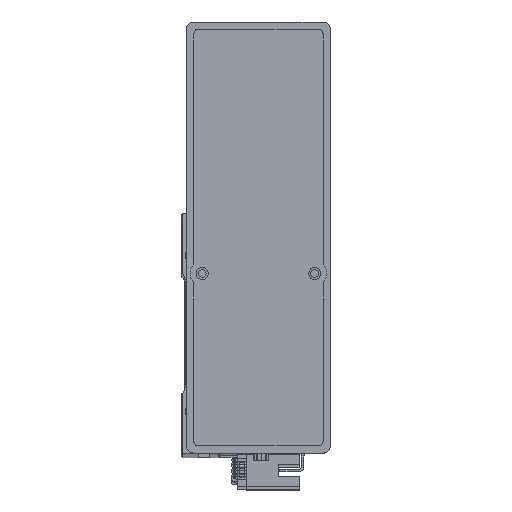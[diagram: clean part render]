
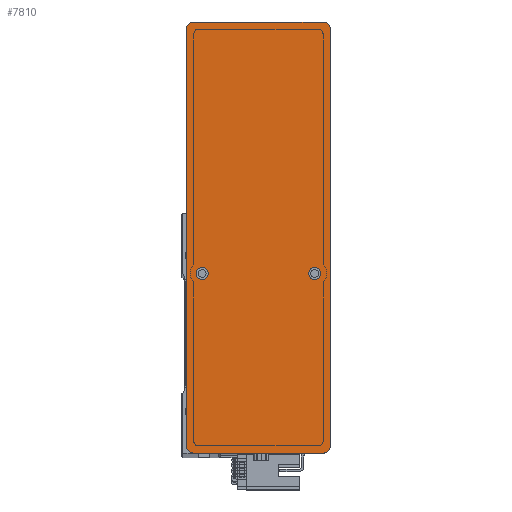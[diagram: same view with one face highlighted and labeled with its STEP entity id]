
A CAD part, top view. The second image highlights one B-rep face of the part: STEP entity #7810.
In plain terms, the highlighted planar face has unit normal (0, 0, 1) as drawn and (0, 0, -1) by its records, which use the part's own axes.
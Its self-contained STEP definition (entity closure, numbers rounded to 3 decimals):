
#15 = DIRECTION ( 'NONE',  ( 0., 0., 1. ) ) ;
#895 = ORIENTED_EDGE ( 'NONE', *, *, #33924, .T. ) ;
#1025 = LINE ( 'NONE', #48555, #35473 ) ;
#1043 = AXIS2_PLACEMENT_3D ( 'NONE', #42932, #20384, #46703 ) ;
#1207 = CARTESIAN_POINT ( 'NONE',  ( -90., -30., 0. ) ) ;
#2779 = AXIS2_PLACEMENT_3D ( 'NONE', #10336, #36709, #14149 ) ;
#2922 = EDGE_CURVE ( 'NONE', #47486, #22800, #47229, .T. ) ;
#3055 = CARTESIAN_POINT ( 'NONE',  ( 90., 30., 0. ) ) ;
#3414 = DIRECTION ( 'NONE',  ( 0., 0., -1. ) ) ;
#4360 = CIRCLE ( 'NONE', #27391, 3. ) ;
#5114 = VECTOR ( 'NONE', #23797, 1000. ) ;
#5465 = VERTEX_POINT ( 'NONE', #15808 ) ;
#6236 = AXIS2_PLACEMENT_3D ( 'NONE', #31749, #9165, #35528 ) ;
#6786 = DIRECTION ( 'NONE',  ( 0., 0., -1. ) ) ;
#7810 = ADVANCED_FACE ( 'NONE', ( #33166, #23113, #25467 ), #25734, .F. ) ;
#7819 = EDGE_LOOP ( 'NONE', ( #21629, #895, #30029, #37222, #20867, #18236, #47578, #45236 ) ) ;
#8064 = CARTESIAN_POINT ( 'NONE',  ( 87., 27., 0. ) ) ;
#8293 = DIRECTION ( 'NONE',  ( 0., 0., -1. ) ) ;
#8413 = AXIS2_PLACEMENT_3D ( 'NONE', #29369, #6786, #33176 ) ;
#8692 = ORIENTED_EDGE ( 'NONE', *, *, #37146, .F. ) ;
#8762 = EDGE_CURVE ( 'NONE', #34471, #20882, #23552, .T. ) ;
#9165 = DIRECTION ( 'NONE',  ( 0., 0., -1. ) ) ;
#10336 = CARTESIAN_POINT ( 'NONE',  ( -15., 23.5, 0. ) ) ;
#11200 = DIRECTION ( 'NONE',  ( 0., 1., 0. ) ) ;
#11855 = DIRECTION ( 'NONE',  ( 1., 0., 0. ) ) ;
#12002 = VECTOR ( 'NONE', #22018, 1000. ) ;
#12177 = CARTESIAN_POINT ( 'NONE',  ( -90., -27., 0. ) ) ;
#13325 = CIRCLE ( 'NONE', #15593, 2.5 ) ;
#14149 = DIRECTION ( 'NONE',  ( -1., 0., 0. ) ) ;
#15593 = AXIS2_PLACEMENT_3D ( 'NONE', #25950, #3414, #29776 ) ;
#15808 = CARTESIAN_POINT ( 'NONE',  ( -90., 27., 0. ) ) ;
#16493 = EDGE_LOOP ( 'NONE', ( #19818, #29363 ) ) ;
#16538 = CARTESIAN_POINT ( 'NONE',  ( -87., 30., 0. ) ) ;
#18236 = ORIENTED_EDGE ( 'NONE', *, *, #37484, .T. ) ;
#19374 = CARTESIAN_POINT ( 'NONE',  ( -17.5, 23.5, 0. ) ) ;
#19451 = CARTESIAN_POINT ( 'NONE',  ( -15., -23.5, 0. ) ) ;
#19743 = EDGE_CURVE ( 'NONE', #27409, #40226, #1025, .T. ) ;
#19818 = ORIENTED_EDGE ( 'NONE', *, *, #46025, .F. ) ;
#20384 = DIRECTION ( 'NONE',  ( 0., 0., -1. ) ) ;
#20794 = EDGE_CURVE ( 'NONE', #42090, #24156, #30566, .T. ) ;
#20867 = ORIENTED_EDGE ( 'NONE', *, *, #48829, .F. ) ;
#20882 = VERTEX_POINT ( 'NONE', #45977 ) ;
#21629 = ORIENTED_EDGE ( 'NONE', *, *, #43020, .F. ) ;
#22018 = DIRECTION ( 'NONE',  ( -1., 0., 0. ) ) ;
#22489 = VECTOR ( 'NONE', #11200, 1000. ) ;
#22667 = EDGE_CURVE ( 'NONE', #34471, #40654, #23215, .T. ) ;
#22800 = VERTEX_POINT ( 'NONE', #22814 ) ;
#22814 = CARTESIAN_POINT ( 'NONE',  ( -12.5, 23.5, 0. ) ) ;
#22855 = AXIS2_PLACEMENT_3D ( 'NONE', #19451, #45813, #23221 ) ;
#23113 = FACE_BOUND ( 'NONE', #16493, .T. ) ;
#23215 = LINE ( 'NONE', #3055, #12002 ) ;
#23221 = DIRECTION ( 'NONE',  ( -1., 0., 0. ) ) ;
#23552 = CIRCLE ( 'NONE', #23553, 3. ) ;
#23553 = AXIS2_PLACEMENT_3D ( 'NONE', #8064, #34462, #11855 ) ;
#23797 = DIRECTION ( 'NONE',  ( 0., -1., 0. ) ) ;
#24156 = VERTEX_POINT ( 'NONE', #39050 ) ;
#24829 = LINE ( 'NONE', #26177, #22489 ) ;
#25129 = CARTESIAN_POINT ( 'NONE',  ( 87., -30., 0. ) ) ;
#25467 = FACE_OUTER_BOUND ( 'NONE', #7819, .T. ) ;
#25734 = PLANE ( 'NONE',  #35832 ) ;
#25950 = CARTESIAN_POINT ( 'NONE',  ( -15., 23.5, 0. ) ) ;
#26177 = CARTESIAN_POINT ( 'NONE',  ( 90., -30., 0. ) ) ;
#26363 = DIRECTION ( 'NONE',  ( 1., 0., 0. ) ) ;
#26557 = CARTESIAN_POINT ( 'NONE',  ( -87., -30., 0. ) ) ;
#27391 = AXIS2_PLACEMENT_3D ( 'NONE', #30882, #8293, #34704 ) ;
#27409 = VERTEX_POINT ( 'NONE', #26557 ) ;
#29106 = VERTEX_POINT ( 'NONE', #33700 ) ;
#29363 = ORIENTED_EDGE ( 'NONE', *, *, #20794, .F. ) ;
#29369 = CARTESIAN_POINT ( 'NONE',  ( -15., -23.5, 0. ) ) ;
#29764 = DIRECTION ( 'NONE',  ( 1., 0., 0. ) ) ;
#29776 = DIRECTION ( 'NONE',  ( -1., 0., 0. ) ) ;
#30029 = ORIENTED_EDGE ( 'NONE', *, *, #19743, .F. ) ;
#30339 = CARTESIAN_POINT ( 'NONE',  ( 87., 30., 0. ) ) ;
#30566 = CIRCLE ( 'NONE', #22855, 2.5 ) ;
#30882 = CARTESIAN_POINT ( 'NONE',  ( 87., -27., 0. ) ) ;
#31749 = CARTESIAN_POINT ( 'NONE',  ( -87., -27., 0. ) ) ;
#32578 = CIRCLE ( 'NONE', #1043, 3. ) ;
#33166 = FACE_BOUND ( 'NONE', #35803, .T. ) ;
#33176 = DIRECTION ( 'NONE',  ( -1., 0., 0. ) ) ;
#33700 = CARTESIAN_POINT ( 'NONE',  ( 90., -27., 0. ) ) ;
#33924 = EDGE_CURVE ( 'NONE', #29106, #40226, #4360, .T. ) ;
#34462 = DIRECTION ( 'NONE',  ( 0., 0., -1. ) ) ;
#34471 = VERTEX_POINT ( 'NONE', #30339 ) ;
#34704 = DIRECTION ( 'NONE',  ( 1., 0., 0. ) ) ;
#35473 = VECTOR ( 'NONE', #29764, 1000. ) ;
#35528 = DIRECTION ( 'NONE',  ( 1., 0., 0. ) ) ;
#35803 = EDGE_LOOP ( 'NONE', ( #48209, #8692 ) ) ;
#35832 = AXIS2_PLACEMENT_3D ( 'NONE', #45195, #15, #26363 ) ;
#36709 = DIRECTION ( 'NONE',  ( 0., 0., -1. ) ) ;
#37146 = EDGE_CURVE ( 'NONE', #22800, #47486, #13325, .T. ) ;
#37222 = ORIENTED_EDGE ( 'NONE', *, *, #47089, .T. ) ;
#37484 = EDGE_CURVE ( 'NONE', #5465, #40654, #32578, .T. ) ;
#38630 = CIRCLE ( 'NONE', #8413, 2.5 ) ;
#39050 = CARTESIAN_POINT ( 'NONE',  ( -17.5, -23.5, 0. ) ) ;
#39174 = CARTESIAN_POINT ( 'NONE',  ( -12.5, -23.5, 0. ) ) ;
#40226 = VERTEX_POINT ( 'NONE', #25129 ) ;
#40654 = VERTEX_POINT ( 'NONE', #16538 ) ;
#41448 = VERTEX_POINT ( 'NONE', #12177 ) ;
#42090 = VERTEX_POINT ( 'NONE', #39174 ) ;
#42932 = CARTESIAN_POINT ( 'NONE',  ( -87., 27., 0. ) ) ;
#43020 = EDGE_CURVE ( 'NONE', #29106, #20882, #24829, .T. ) ;
#44032 = LINE ( 'NONE', #1207, #5114 ) ;
#44306 = CIRCLE ( 'NONE', #6236, 3. ) ;
#45195 = CARTESIAN_POINT ( 'NONE',  ( 0., 0., 0. ) ) ;
#45236 = ORIENTED_EDGE ( 'NONE', *, *, #8762, .T. ) ;
#45813 = DIRECTION ( 'NONE',  ( 0., 0., -1. ) ) ;
#45977 = CARTESIAN_POINT ( 'NONE',  ( 90., 27., 0. ) ) ;
#46025 = EDGE_CURVE ( 'NONE', #24156, #42090, #38630, .T. ) ;
#46703 = DIRECTION ( 'NONE',  ( 1., 0., 0. ) ) ;
#47089 = EDGE_CURVE ( 'NONE', #27409, #41448, #44306, .T. ) ;
#47229 = CIRCLE ( 'NONE', #2779, 2.5 ) ;
#47486 = VERTEX_POINT ( 'NONE', #19374 ) ;
#47578 = ORIENTED_EDGE ( 'NONE', *, *, #22667, .F. ) ;
#48209 = ORIENTED_EDGE ( 'NONE', *, *, #2922, .F. ) ;
#48555 = CARTESIAN_POINT ( 'NONE',  ( 90., -30., 0. ) ) ;
#48829 = EDGE_CURVE ( 'NONE', #5465, #41448, #44032, .T. ) ;
